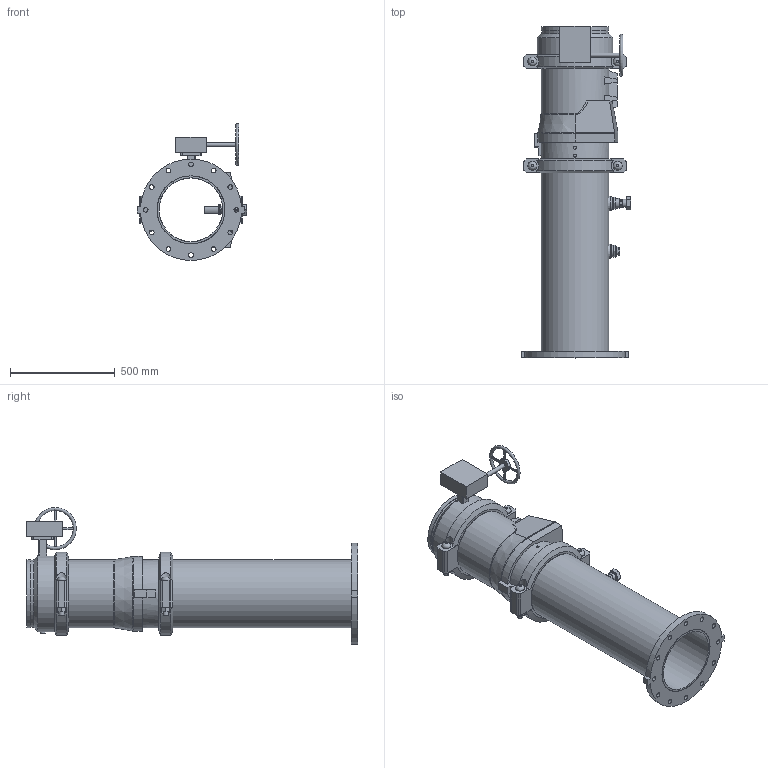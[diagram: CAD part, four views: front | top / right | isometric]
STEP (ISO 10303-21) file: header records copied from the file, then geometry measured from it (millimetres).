
FILE_DESCRIPTION(/* description */ ('VIC DVI PUMP DROP VERT S/380 (OGSxFLG) (S/924-1.25)','CAx-IF Rec.Pracs.---Representation and Presentation of Product Manufacturing Information (PMI)---4.0---2014-10-13'),/* implementation_level */ '2;1');
FILE_NAME(/* name */ 'C:\Users\Public\Documents\Victaulic.Temp\A765\Victaulic_IPS_Vertical DVI_CL 150_Series 380 (OGSxFLG)_924 (1.25)_12.0x12.0 (300x300).stp',/* time_stamp */ '2022-07-25T11:15:18+02:00',/* author */ ('Vjadhav'),/* organization */ ('Victaulic'),/* preprocessor_version */ 'ST-DEVELOPER v18',/* originating_system */ 'Autodesk Inventor 2020',/* authorisation */ '');
FILE_SCHEMA (('CONFIG_CONTROL_DESIGN','AP242_MANAGED_MODEL_BASED_3D_ENGINEERING_MIM_LF { 1 0 10303 442 1 1 4 }'));
Length unit declared in the file: inch
Products named in the file (8): 380_924 (1.25)-12.0x12.0; 741-12.0; Pipe-12.0x12.0; 779-12.0; 923-10.0x0.75; 924-10.0x01.25; 761-12.0; 077-12.0
Assembly tree (8 placements, depth 2):
  380_924 (1.25)-12.0x12.0
    741-12.0
    Pipe-12.0x12.0
    779-12.0
    923-10.0x0.75
    924-10.0x01.25
    761-12.0
    077-12.0  x2
Bounding box: 523.75 x 1580.9 x 652.25 mm (x, y, z)
Volume: 34883818.4 mm3; surface area: 4563878.5 mm2
Topology: 8 solids, 14 shells, 435 faces, 1097 edges, 745 vertices
Faces by surface type: plane 268, cylinder 140, cone 14, torus 7, bspline 6
Full cylindrical faces by diameter (mm): 10.922 x4, 13.716 x4, 20.066 x1, 21.336 x2, 22.225 x12, 22.86 x1, 25.4 x8, 26.67 x2, 27.432 x4, 31.75 x1, 38.608 x1, 42.164 x1, 45.974 x4, 48.514 x1, 55.626 x2, 63.079 x1, 70.104 x1, 76.2 x1, 303.225 x2, 304.8 x1, 314.96 x2, 318.287 x6, 323.85 x16, 361.95 x1
Entity records: 12718 total; most frequent: CARTESIAN_POINT 2546, DIRECTION 2061, ORIENTED_EDGE 1904, EDGE_CURVE 952, AXIS2_PLACEMENT_3D 776, VERTEX_POINT 647, LINE 509, VECTOR 509
